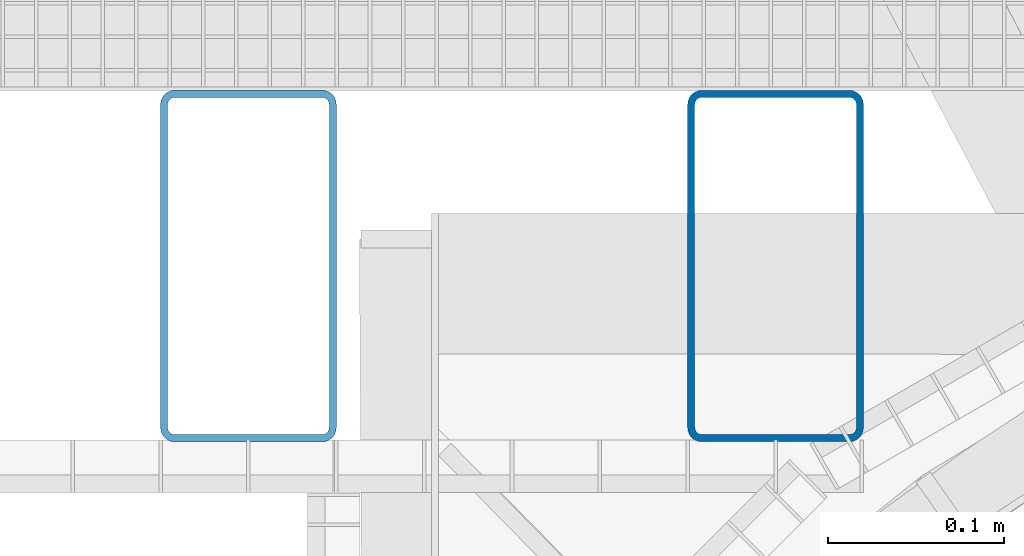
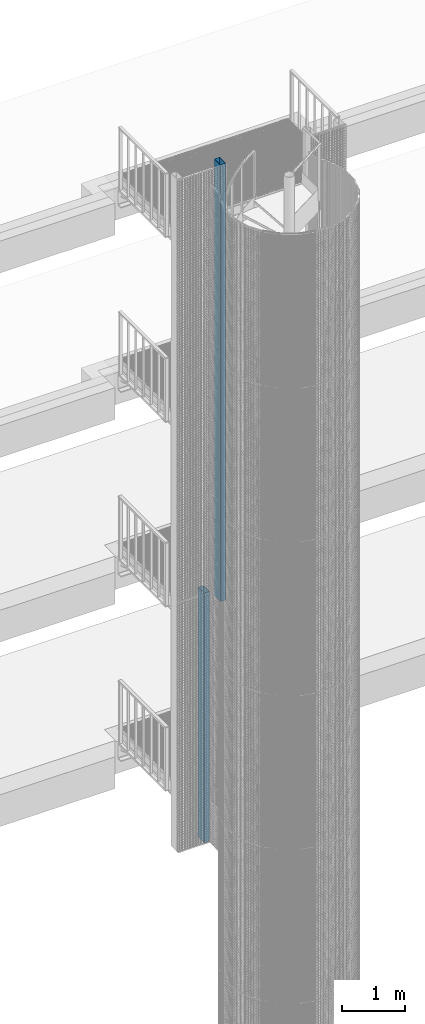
# One storey, part 58 of 1148: 2 columns, 2 elements without a shape of their own.
"""IFC2X3 building model written with IfcOpenShell, lengths in millimetres."""

from ifc_helpers import new_model, si_unit, frame, origin_with_axes, origin_2d_with_axis, place, context, subcontext, project, spatial, hollow_rectangle, extrude, material, type_object, element, aggregate, save


model = new_model("IFC2X3")

# Units and contexts
model_context = context("Model", 3, precision=1e-05, world=origin_with_axes())
body_context = subcontext(model_context, "Body", "Model", "MODEL_VIEW")
ifc_project = project(units=[si_unit("LENGTHUNIT", "METRE", prefix="MILLI"), si_unit("AREAUNIT", "SQUARE_METRE"), si_unit("VOLUMEUNIT", "CUBIC_METRE"), si_unit("MASSUNIT", "GRAM", prefix="KILO"), si_unit("TIMEUNIT", "SECOND"), si_unit("PLANEANGLEUNIT", "RADIAN"), si_unit("SOLIDANGLEUNIT", "STERADIAN"), si_unit("THERMODYNAMICTEMPERATUREUNIT", "DEGREE_CELSIUS"), si_unit("LUMINOUSINTENSITYUNIT", "LUMEN")], contexts=[model_context])

# Site, building, storey
site_placement = place(None, origin_with_axes())
site = spatial("IfcSite", under=ifc_project, at=site_placement, Name="Undefined", CompositionType="ELEMENT")
building_placement = place(site_placement, origin_with_axes())
building = spatial("IfcBuilding", under=site, at=building_placement, Name="Undefined", CompositionType="ELEMENT")
storey_placement = place(building_placement, origin_with_axes())
storey = spatial("IfcBuildingStorey", under=building, at=storey_placement, Name="Undefined", CompositionType="ELEMENT", Elevation=0.0)

# Assembly, column
assembly_1_placement = place(storey_placement, origin_with_axes())
assembly_1 = element("IfcElementAssembly", 1, at=assembly_1_placement, inside=storey, AssemblyPlace="NOTDEFINED", PredefinedType="NOTDEFINED")
ifc_material = material(Name="STEEL/S235JR")
column_type = type_object("IfcColumnType", Name="TUBE-R-200*100*4", PredefinedType="NOTDEFINED")
column_1_placement = place(assembly_1_placement, frame((20899.930410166, 1000.0146899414, 9769.99678174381), z_axis=(0.0, 0.0, 1.0), x_axis=(0.0, 1.0, 0.0)))
column_1 = element("IfcColumn", 2, at=column_1_placement, type_object=column_type, material=ifc_material, Name="EXISTANTS", context=body_context, shape_type="SweptSolid", body=[
    extrude(hollow_rectangle(XDim=100.0, YDim=200.0, WallThickness=4.0, InnerFilletRadius=4.0, OuterFilletRadius=8.0, at=origin_2d_with_axis()), frame((0.0, 0.0, 8520.00321825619), z_axis=(0.0, 0.0, -1.0), x_axis=(0.0, 1.0, 0.0)), (0.0, 0.0, 1.0), 8520.0),
])
aggregate(assembly_1, [column_1])

assembly_2_placement = place(storey_placement, origin_with_axes())
assembly_2 = element("IfcElementAssembly", 3, at=assembly_2_placement, inside=storey, AssemblyPlace="NOTDEFINED", PredefinedType="NOTDEFINED")
column_2_placement = place(assembly_2_placement, frame((20599.930410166, 1000.0146899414, 5170.0), z_axis=(0.0, 0.0, 1.0), x_axis=(0.0, 1.0, 0.0)))
column_2 = element("IfcColumn", 4, at=column_2_placement, type_object=column_type, material=ifc_material, Name="EXISTANTS", context=body_context, shape_type="SweptSolid", body=[
    extrude(hollow_rectangle(XDim=100.0, YDim=200.0, WallThickness=4.0, InnerFilletRadius=4.0, OuterFilletRadius=8.0, at=origin_2d_with_axis()), frame((0.0, 0.0, 4869.99678174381), z_axis=(0.0, 0.0, -1.0), x_axis=(0.0, 1.0, 0.0)), (0.0, 0.0, 1.0), 4870.0),
])
aggregate(assembly_2, [column_2])

save(model, "model.ifc")
